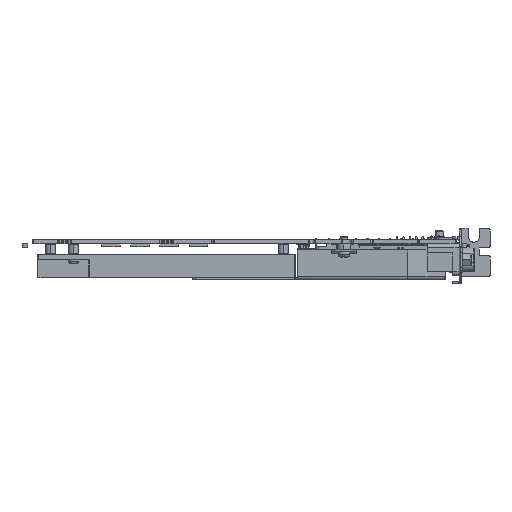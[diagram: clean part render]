
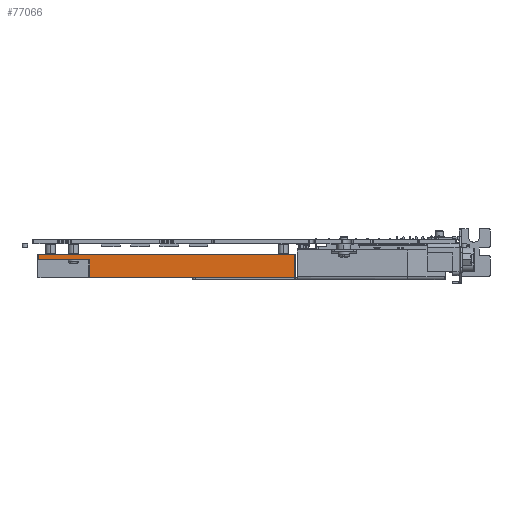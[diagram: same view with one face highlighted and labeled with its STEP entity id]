
A CAD part, front view. The second image highlights one B-rep face of the part: STEP entity #77066.
In plain terms, the highlighted planar face has unit normal (0, -1, 0).
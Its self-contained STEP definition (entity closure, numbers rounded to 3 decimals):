
#18890=DIRECTION('',(0.,0.,1.));
#18891=VECTOR('',#18890,2.3);
#18892=CARTESIAN_POINT('',(8.195,33.049,-6.3));
#18893=LINE('',#18892,#18891);
#18894=DIRECTION('',(1.,0.,0.));
#18895=VECTOR('',#18894,101.4);
#18896=CARTESIAN_POINT('',(8.195,33.049,-4.));
#18897=LINE('',#18896,#18895);
#18898=DIRECTION('',(0.,0.,-1.));
#18899=VECTOR('',#18898,9.3);
#18900=CARTESIAN_POINT('',(109.595,33.055,-4.));
#18901=LINE('',#18900,#18899);
#18902=DIRECTION('',(0.,0.,-1.));
#18903=VECTOR('',#18902,7.);
#18904=CARTESIAN_POINT('',(28.395,33.05,-6.3));
#18905=LINE('',#18904,#18903);
#18906=DIRECTION('',(-1.,0.,0.));
#18907=VECTOR('',#18906,20.2);
#18908=CARTESIAN_POINT('',(28.395,33.05,-6.3));
#18909=LINE('',#18908,#18907);
#18978=DIRECTION('',(1.,0.,0.));
#18979=VECTOR('',#18978,81.2);
#18980=CARTESIAN_POINT('',(28.395,33.05,-13.3));
#18981=LINE('',#18980,#18979);
#44091=CARTESIAN_POINT('',(28.395,33.05,-13.3));
#44093=VERTEX_POINT('',#44091);
#44097=CARTESIAN_POINT('',(28.395,33.05,-6.3));
#44098=VERTEX_POINT('',#44097);
#44320=CARTESIAN_POINT('',(109.595,33.055,-13.3));
#44322=VERTEX_POINT('',#44320);
#44323=CARTESIAN_POINT('',(109.595,33.055,-4.));
#44324=VERTEX_POINT('',#44323);
#44336=CARTESIAN_POINT('',(8.195,33.049,-4.));
#44338=VERTEX_POINT('',#44336);
#44339=CARTESIAN_POINT('',(8.195,33.049,-6.3));
#44340=VERTEX_POINT('',#44339);
#77049=CARTESIAN_POINT('',(7.895,33.049,-4.));
#77050=DIRECTION('',(0.,-1.,0.));
#77051=DIRECTION('',(0.,0.,-1.));
#77052=AXIS2_PLACEMENT_3D('',#77049,#77050,#77051);
#77053=PLANE('',#77052);
#77054=ORIENTED_EDGE('',*,*,#77040,.T.);
#77055=ORIENTED_EDGE('',*,*,#76982,.T.);
#77057=ORIENTED_EDGE('',*,*,#77056,.T.);
#77059=ORIENTED_EDGE('',*,*,#77058,.F.);
#77061=ORIENTED_EDGE('',*,*,#77060,.F.);
#77063=ORIENTED_EDGE('',*,*,#77062,.T.);
#77064=EDGE_LOOP('',(#77054,#77055,#77057,#77059,#77061,#77063));
#77065=FACE_OUTER_BOUND('',#77064,.F.);
#77066=ADVANCED_FACE('',(#77065),#77053,.T.);
#76982=EDGE_CURVE('',#44338,#44324,#18897,.T.);
#77040=EDGE_CURVE('',#44340,#44338,#18893,.T.);
#77056=EDGE_CURVE('',#44324,#44322,#18901,.T.);
#77058=EDGE_CURVE('',#44093,#44322,#18981,.T.);
#77060=EDGE_CURVE('',#44098,#44093,#18905,.T.);
#77062=EDGE_CURVE('',#44098,#44340,#18909,.T.);
